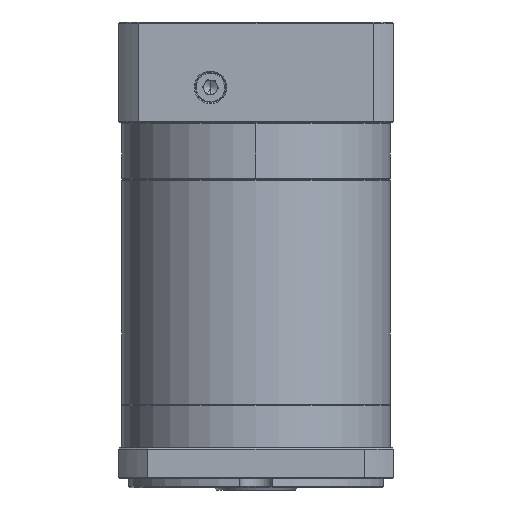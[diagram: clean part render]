
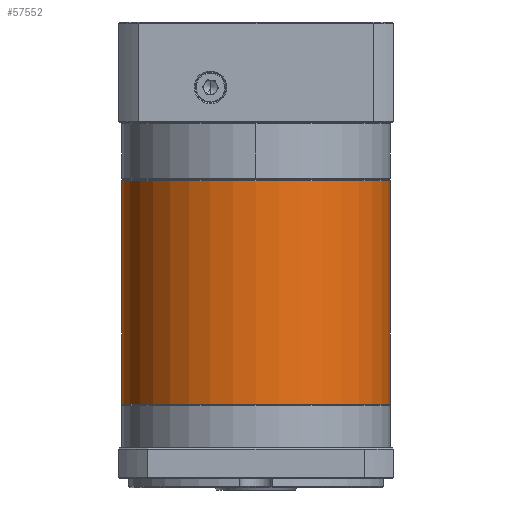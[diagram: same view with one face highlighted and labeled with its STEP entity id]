
A CAD part, front view. The second image highlights one B-rep face of the part: STEP entity #57552.
In plain terms, the highlighted cylindrical face has radius 57.5 mm (diameter 115 mm), a partial arc.
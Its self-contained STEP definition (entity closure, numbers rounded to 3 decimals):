
#8959 = CIRCLE ( 'NONE', #83721, 57.5 ) ;
#10482 = ORIENTED_EDGE ( 'NONE', *, *, #118901, .T. ) ;
#11904 = DIRECTION ( 'NONE',  ( -1., 0., 0. ) ) ;
#13620 = DIRECTION ( 'NONE',  ( 0., 0., -1. ) ) ;
#18274 = EDGE_LOOP ( 'NONE', ( #123374, #93471, #10482, #71369, #126610 ) ) ;
#19160 = AXIS2_PLACEMENT_3D ( 'NONE', #42878, #13620, #11904 ) ;
#19220 = AXIS2_PLACEMENT_3D ( 'NONE', #108842, #79987, #58841 ) ;
#20543 = CARTESIAN_POINT ( 'NONE',  ( 62.23, 56.473, -158.638 ) ) ;
#21374 = DIRECTION ( 'NONE',  ( 0., 0., 1. ) ) ;
#23124 = CARTESIAN_POINT ( 'NONE',  ( 4.73, 56.473, -62.427 ) ) ;
#24144 = VERTEX_POINT ( 'NONE', #38867 ) ;
#24684 = CYLINDRICAL_SURFACE ( 'NONE', #19220, 57.5 ) ;
#37947 = CARTESIAN_POINT ( 'NONE',  ( 4.73, 56.473, -62.927 ) ) ;
#38867 = CARTESIAN_POINT ( 'NONE',  ( 119.73, 56.473, -158.638 ) ) ;
#40093 = CARTESIAN_POINT ( 'NONE',  ( 119.73, 56.473, -62.927 ) ) ;
#42878 = CARTESIAN_POINT ( 'NONE',  ( 62.23, 56.473, -62.927 ) ) ;
#52983 = CARTESIAN_POINT ( 'NONE',  ( 62.23, 56.473, -62.927 ) ) ;
#57552 = ADVANCED_FACE ( 'NONE', ( #92457 ), #24684, .T. ) ;
#57597 = VECTOR ( 'NONE', #63046, 1000. ) ;
#58513 = CARTESIAN_POINT ( 'NONE',  ( 119.73, 56.473, -62.427 ) ) ;
#58841 = DIRECTION ( 'NONE',  ( -1., 0., 0. ) ) ;
#60583 = EDGE_CURVE ( 'NONE', #87388, #124616, #74556, .T. ) ;
#62435 = DIRECTION ( 'NONE',  ( -1., 0., 0. ) ) ;
#63046 = DIRECTION ( 'NONE',  ( 0., 0., -1. ) ) ;
#71369 = ORIENTED_EDGE ( 'NONE', *, *, #60583, .T. ) ;
#71684 = VECTOR ( 'NONE', #98158, 1000. ) ;
#72896 = VERTEX_POINT ( 'NONE', #40093 ) ;
#73861 = AXIS2_PLACEMENT_3D ( 'NONE', #52983, #91356, #62435 ) ;
#74556 = LINE ( 'NONE', #23124, #57597 ) ;
#79987 = DIRECTION ( 'NONE',  ( 0., 0., -1. ) ) ;
#83721 = AXIS2_PLACEMENT_3D ( 'NONE', #20543, #21374, #119940 ) ;
#87019 = EDGE_CURVE ( 'NONE', #72896, #91975, #127033, .T. ) ;
#87388 = VERTEX_POINT ( 'NONE', #37947 ) ;
#88301 = CARTESIAN_POINT ( 'NONE',  ( 62.23, -1.027, -62.927 ) ) ;
#91356 = DIRECTION ( 'NONE',  ( 0., 0., -1. ) ) ;
#91975 = VERTEX_POINT ( 'NONE', #88301 ) ;
#92457 = FACE_OUTER_BOUND ( 'NONE', #18274, .T. ) ;
#93471 = ORIENTED_EDGE ( 'NONE', *, *, #87019, .T. ) ;
#97900 = LINE ( 'NONE', #58513, #71684 ) ;
#98158 = DIRECTION ( 'NONE',  ( 0., 0., -1. ) ) ;
#102843 = EDGE_CURVE ( 'NONE', #124616, #24144, #8959, .T. ) ;
#108842 = CARTESIAN_POINT ( 'NONE',  ( 62.23, 56.473, -62.427 ) ) ;
#116983 = CIRCLE ( 'NONE', #19160, 57.5 ) ;
#118901 = EDGE_CURVE ( 'NONE', #91975, #87388, #116983, .T. ) ;
#119940 = DIRECTION ( 'NONE',  ( -1., 0., 0. ) ) ;
#122484 = CARTESIAN_POINT ( 'NONE',  ( 4.73, 56.473, -158.638 ) ) ;
#123374 = ORIENTED_EDGE ( 'NONE', *, *, #125348, .F. ) ;
#124616 = VERTEX_POINT ( 'NONE', #122484 ) ;
#125348 = EDGE_CURVE ( 'NONE', #72896, #24144, #97900, .T. ) ;
#126610 = ORIENTED_EDGE ( 'NONE', *, *, #102843, .T. ) ;
#127033 = CIRCLE ( 'NONE', #73861, 57.5 ) ;
